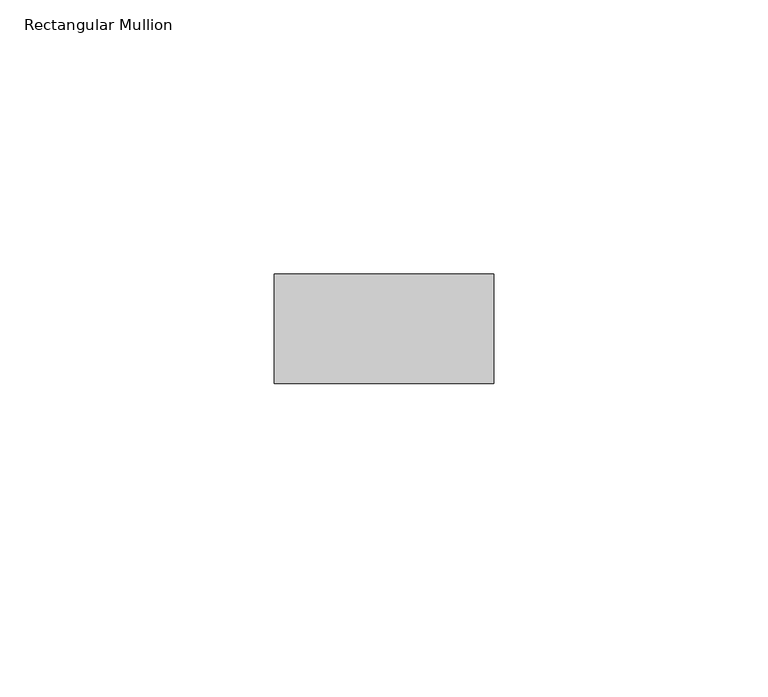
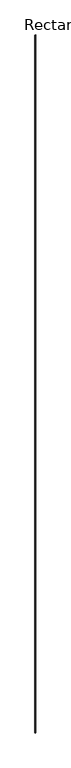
"""IFC4 building model written with IfcOpenShell, lengths in millimetres: member geometry, Rectangular Mullion : RIPA 4x2 cm."""

from ifc_helpers import new_model, si_unit, frame, origin, place, context, project, spatial, polyline, outline, extrude, source, transform, mapped, element, save


def rectangular_mullion_7ad25f31(model_context):
    return source(origin(), model_context, "Body", "SweptSolid", [
        extrude(outline(polyline([(20.0, 0.0), (20.0, -20.0), (-20.0, -20.0), (-20.0, 0.0), (20.0, 0.0)])), frame((0.0, 0.0, -40538.9440379), z_axis=(0.0, 0.0, 1.0), x_axis=(1.0, 0.0, 0.0)), (0.0, 0.0, 1.0), 40538.9440379),
    ])


if __name__ == "__main__":
    model = new_model("IFC4")
    model_context = context("Model", 3, world=origin())
    ifc_project = project(units=[si_unit("LENGTHUNIT", "METRE", prefix="MILLI")], contexts=[model_context])
    site = spatial("IfcSite", under=ifc_project)
    building = spatial("IfcBuilding", under=site)
    placement = place(None, origin())
    rectangular_mullion_shape = rectangular_mullion_7ad25f31(model_context)
    element("IfcMember", 1, ObjectType="Rectangular Mullion : RIPA 4x2 cm", at=placement, inside=building, context=model_context, shape_type="MappedRepresentation", body=[
        mapped(rectangular_mullion_shape, transform((0.0, 0.0, 0.0), x_axis=(1.0, 0.0, 0.0), y_axis=(0.0, 1.0, 0.0), z_axis=(0.0, 0.0, 1.0))),
    ])
    save(model, "model.ifc")
